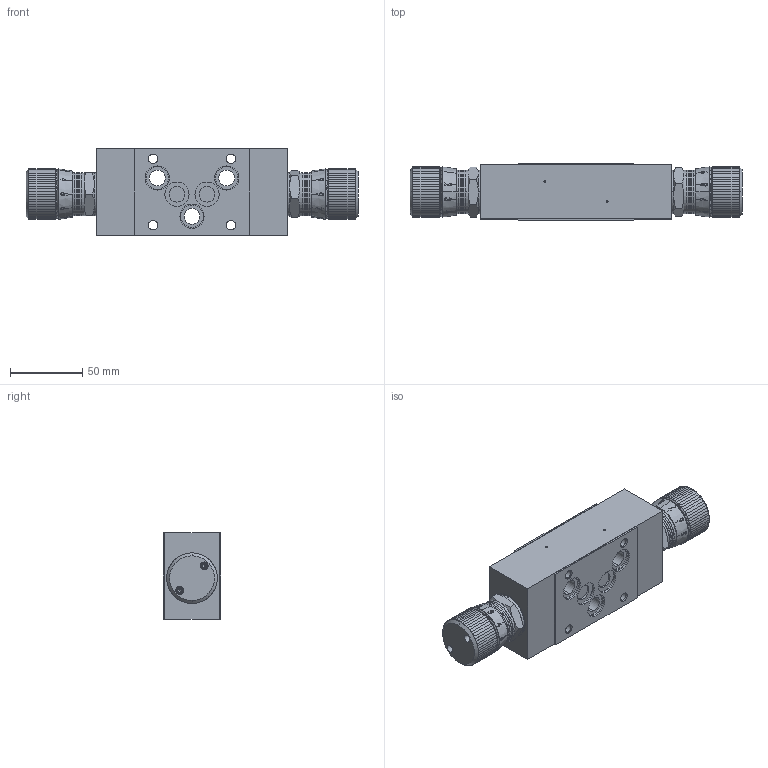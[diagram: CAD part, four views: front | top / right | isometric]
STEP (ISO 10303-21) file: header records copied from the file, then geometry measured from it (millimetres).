
FILE_DESCRIPTION (( 'STEP AP214' ), '1' );
FILE_NAME ('AURDV10.STEP', '2017-04-12T14:06:43', ( '' ), ( '' ), 'SwSTEP 2.0', 'SolidWorks 2016', '' );
FILE_SCHEMA (( 'AUTOMOTIVE_DESIGN' ));
Length unit declared in the file: millimetre
Products named in the file (1): AURDV10
Bounding box: 230 x 40 x 60 mm (x, y, z)
Volume: 372080.7 mm3; surface area: 66691.1 mm2
Topology: 3 solids, 3 shells, 1778 faces, 4977 edges, 3254 vertices
Faces by surface type: plane 1117, cylinder 275, bspline 236, cone 142, torus 8
Entity records: 105067 total; most frequent: CARTESIAN_POINT 43581, ORIENTED_EDGE 9922, DIRECTION 7079, EDGE_CURVE 4961, VERTEX_POINT 3254, AXIS2_PLACEMENT_3D 2621, B_SPLINE_CURVE_WITH_KNOTS 1999, EDGE_LOOP 1893
